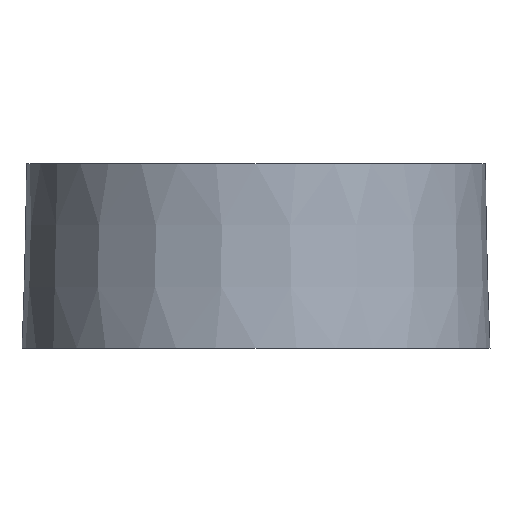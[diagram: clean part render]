
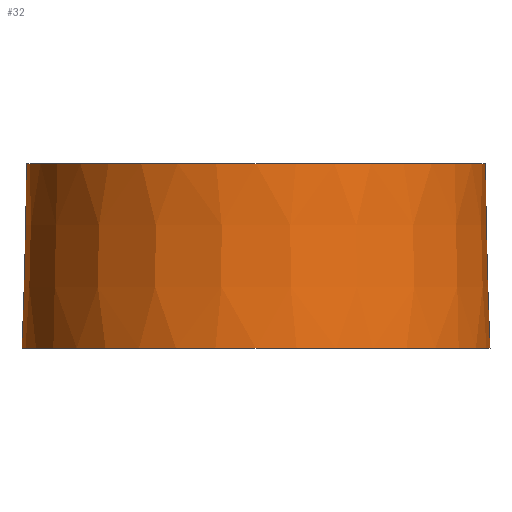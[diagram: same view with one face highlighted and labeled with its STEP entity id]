
A CAD part, front view. The second image highlights one B-rep face of the part: STEP entity #32.
In plain terms, the highlighted conical face has half-angle 1.43 degrees and reference radius 50.7 mm.
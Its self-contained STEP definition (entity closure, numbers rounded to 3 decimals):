
#32 = ADVANCED_FACE( '', ( #61, #62 ), #63, .T. );
#61 = FACE_BOUND( '', #84, .T. );
#62 = FACE_OUTER_BOUND( '', #85, .T. );
#63 = CONICAL_SURFACE( '', #86, 50.7, 0.025 );
#84 = EDGE_LOOP( '', ( #105 ) );
#85 = EDGE_LOOP( '', ( #106 ) );
#86 = AXIS2_PLACEMENT_3D( '', #107, #108, #109 );
#105 = ORIENTED_EDGE( '', *, *, #120, .T. );
#106 = ORIENTED_EDGE( '', *, *, #122, .F. );
#107 = CARTESIAN_POINT( '', ( 0., 0., -40. ) );
#108 = DIRECTION( '', ( 0., 0., -1. ) );
#109 = DIRECTION( '', ( 0., 1., 0. ) );
#120 = EDGE_CURVE( '', #130, #130, #131, .T. );
#122 = EDGE_CURVE( '', #133, #133, #134, .T. );
#130 = VERTEX_POINT( '', #142 );
#131 = CIRCLE( '', #143, 49.701 );
#133 = VERTEX_POINT( '', #145 );
#134 = CIRCLE( '', #146, 50.7 );
#142 = CARTESIAN_POINT( '', ( 0., 49.701, 0. ) );
#143 = AXIS2_PLACEMENT_3D( '', #154, #155, #156 );
#145 = CARTESIAN_POINT( '', ( 0., 50.7, -40. ) );
#146 = AXIS2_PLACEMENT_3D( '', #157, #158, #159 );
#154 = CARTESIAN_POINT( '', ( 0., 0., 0. ) );
#155 = DIRECTION( '', ( 0., 0., -1. ) );
#156 = DIRECTION( '', ( 0., 1., 0. ) );
#157 = CARTESIAN_POINT( '', ( 0., 0., -40. ) );
#158 = DIRECTION( '', ( 0., 0., -1. ) );
#159 = DIRECTION( '', ( 0., 1., 0. ) );
